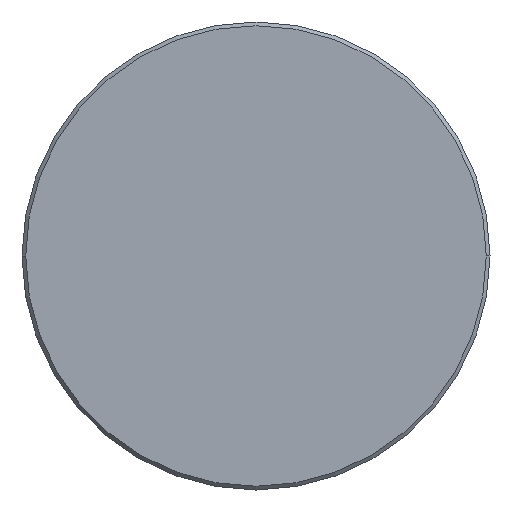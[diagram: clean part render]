
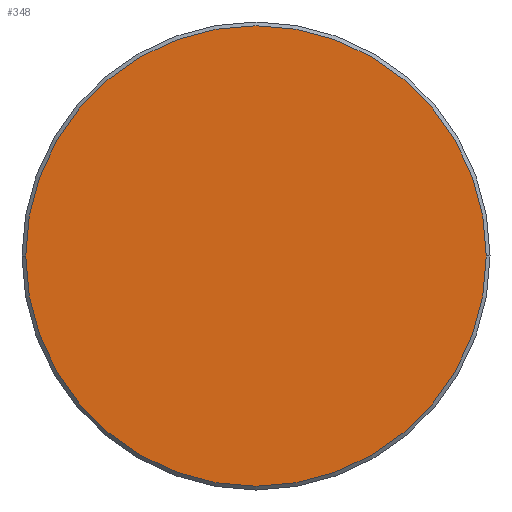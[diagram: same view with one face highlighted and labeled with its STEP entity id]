
A CAD part, left-side view. The second image highlights one B-rep face of the part: STEP entity #348.
In plain terms, the highlighted planar face has unit normal (-1, 0, 0).
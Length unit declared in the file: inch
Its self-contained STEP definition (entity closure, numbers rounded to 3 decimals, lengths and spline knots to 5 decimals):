
#2 = CIRCLE ( 'NONE', #35, 0.246 ) ;
#35 = AXIS2_PLACEMENT_3D ( 'NONE', #39, #222, #159 ) ;
#39 = CARTESIAN_POINT ( 'NONE',  ( 0., 0., 0. ) ) ;
#57 = CARTESIAN_POINT ( 'NONE',  ( 0., -0.246, 0. ) ) ;
#59 = PLANE ( 'NONE',  #333 ) ;
#61 = DIRECTION ( 'NONE',  ( 0., -1., 0. ) ) ;
#101 = EDGE_CURVE ( 'NONE', #346, #130, #2, .T. ) ;
#130 = VERTEX_POINT ( 'NONE', #274 ) ;
#145 = EDGE_LOOP ( 'NONE', ( #275, #166 ) ) ;
#151 = CARTESIAN_POINT ( 'NONE',  ( 0., 0., 0. ) ) ;
#159 = DIRECTION ( 'NONE',  ( 0., -1., 0. ) ) ;
#166 = ORIENTED_EDGE ( 'NONE', *, *, #101, .T. ) ;
#181 = DIRECTION ( 'NONE',  ( -1., 0., 0. ) ) ;
#201 = CIRCLE ( 'NONE', #213, 0.246 ) ;
#211 = DIRECTION ( 'NONE',  ( 0., -1., 0. ) ) ;
#213 = AXIS2_PLACEMENT_3D ( 'NONE', #358, #181, #61 ) ;
#222 = DIRECTION ( 'NONE',  ( -1., 0., 0. ) ) ;
#274 = CARTESIAN_POINT ( 'NONE',  ( 0., 0.246, 0. ) ) ;
#275 = ORIENTED_EDGE ( 'NONE', *, *, #313, .T. ) ;
#313 = EDGE_CURVE ( 'NONE', #130, #346, #201, .T. ) ;
#333 = AXIS2_PLACEMENT_3D ( 'NONE', #151, #361, #211 ) ;
#338 = FACE_OUTER_BOUND ( 'NONE', #145, .T. ) ;
#346 = VERTEX_POINT ( 'NONE', #57 ) ;
#348 = ADVANCED_FACE ( 'NONE', ( #338 ), #59, .T. ) ;
#358 = CARTESIAN_POINT ( 'NONE',  ( 0., 0., 0. ) ) ;
#361 = DIRECTION ( 'NONE',  ( -1., 0., 0. ) ) ;
